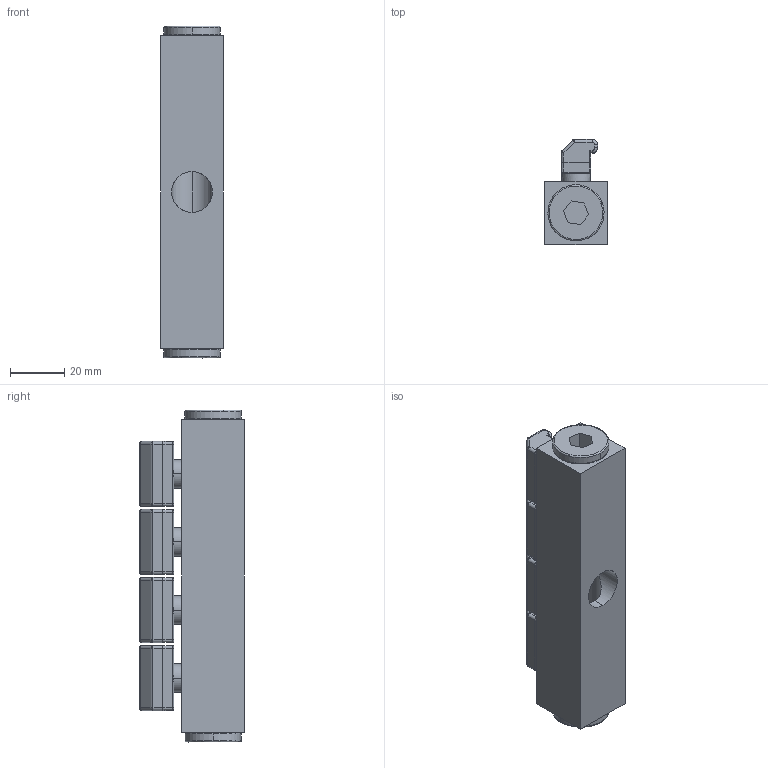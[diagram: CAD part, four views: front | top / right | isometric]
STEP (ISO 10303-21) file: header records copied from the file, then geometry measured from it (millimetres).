
FILE_DESCRIPTION (( 'STEP AP214' ), '1' );
FILE_NAME ('Silvent 364.STEP', '2009-11-02T10:46:00', ( ' ' ), ( ' ' ), 'SwSTEP 2.0', 'SolidWorks 2009', '' );
FILE_SCHEMA (( 'AUTOMOTIVE_DESIGN' ));
Length unit declared in the file: millimetre
Products named in the file (1): Silvent 364
Bounding box: 23 x 38.5 x 122 mm (x, y, z)
Volume: 58239.2 mm3; surface area: 27471.9 mm2
Topology: 7 solids, 7 shells, 954 faces, 2419 edges, 1502 vertices
Faces by surface type: plane 514, cylinder 292, torus 64, bspline 40, cone 28, sphere 16
Entity records: 38223 total; most frequent: CARTESIAN_POINT 14602, ORIENTED_EDGE 4806, DIRECTION 4715, EDGE_CURVE 2403, LINE 1645, VECTOR 1645, AXIS2_PLACEMENT_3D 1535, VERTEX_POINT 1502
